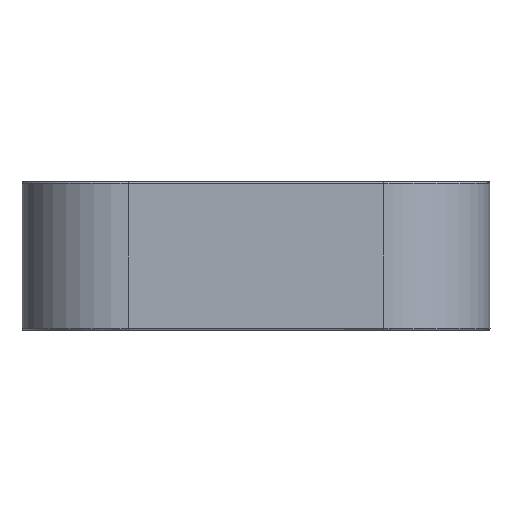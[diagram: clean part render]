
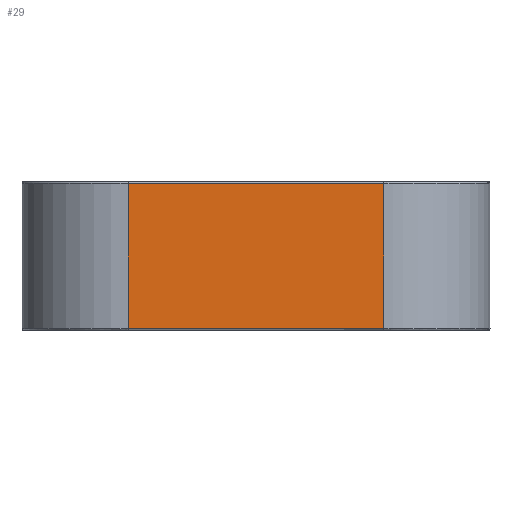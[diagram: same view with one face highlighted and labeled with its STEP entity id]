
A CAD part, left-side view. The second image highlights one B-rep face of the part: STEP entity #29.
In plain terms, the highlighted planar face has unit normal (-1, 0, 0).
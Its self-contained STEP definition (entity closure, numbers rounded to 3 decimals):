
#29=ADVANCED_FACE('',(#143),#1726,.T.);
#143=FACE_OUTER_BOUND('',#257,.T.);
#257=EDGE_LOOP('',(#386,#387,#388,#389));
#386=ORIENTED_EDGE('',*,*,#941,.F.);
#387=ORIENTED_EDGE('',*,*,#989,.T.);
#388=ORIENTED_EDGE('',*,*,#940,.T.);
#389=ORIENTED_EDGE('',*,*,#991,.F.);
#940=EDGE_CURVE('',#1497,#1495,#1392,.T.);
#941=EDGE_CURVE('',#1496,#1494,#1393,.T.);
#989=EDGE_CURVE('',#1496,#1497,#1425,.T.);
#991=EDGE_CURVE('',#1494,#1495,#1427,.T.);
#1392=(
BOUNDED_CURVE()
B_SPLINE_CURVE(1,(#2730,#2731),.UNSPECIFIED.,.F.,.F.)
B_SPLINE_CURVE_WITH_KNOTS((2,2),(1.,69.),
 .UNSPECIFIED.)
CURVE()
GEOMETRIC_REPRESENTATION_ITEM()
RATIONAL_B_SPLINE_CURVE((1.,1.))
REPRESENTATION_ITEM('')
);
#1393=(
BOUNDED_CURVE()
B_SPLINE_CURVE(1,(#2732,#2733),.UNSPECIFIED.,.F.,.F.)
B_SPLINE_CURVE_WITH_KNOTS((2,2),(1.,69.),
 .UNSPECIFIED.)
CURVE()
GEOMETRIC_REPRESENTATION_ITEM()
RATIONAL_B_SPLINE_CURVE((1.,1.))
REPRESENTATION_ITEM('')
);
#1425=(
BOUNDED_CURVE()
B_SPLINE_CURVE(1,(#2845,#2846),.UNSPECIFIED.,.F.,.F.)
B_SPLINE_CURVE_WITH_KNOTS((2,2),(0.,120.),
 .UNSPECIFIED.)
CURVE()
GEOMETRIC_REPRESENTATION_ITEM()
RATIONAL_B_SPLINE_CURVE((1.,1.))
REPRESENTATION_ITEM('')
);
#1427=(
BOUNDED_CURVE()
B_SPLINE_CURVE(1,(#2850,#2851),.UNSPECIFIED.,.F.,.F.)
B_SPLINE_CURVE_WITH_KNOTS((2,2),(0.,120.),
 .UNSPECIFIED.)
CURVE()
GEOMETRIC_REPRESENTATION_ITEM()
RATIONAL_B_SPLINE_CURVE((1.,1.))
REPRESENTATION_ITEM('')
);
#1494=VERTEX_POINT('',#2556);
#1495=VERTEX_POINT('',#2557);
#1496=VERTEX_POINT('',#2558);
#1497=VERTEX_POINT('',#2559);
#1726=PLANE('',#1867);
#1867=AXIS2_PLACEMENT_3D('',#2031,#1949,$);
#1949=DIRECTION('',(-1.,0.,0.));
#2031=CARTESIAN_POINT('',(48554.397,1437.346,-8418.552));
#2556=CARTESIAN_POINT('',(48554.397,1437.346,-8487.552));
#2557=CARTESIAN_POINT('',(48554.397,1557.346,-8487.552));
#2558=CARTESIAN_POINT('',(48554.397,1437.346,-8419.552));
#2559=CARTESIAN_POINT('',(48554.397,1557.346,-8419.552));
#2730=CARTESIAN_POINT('',(48554.397,1557.346,-8419.552));
#2731=CARTESIAN_POINT('',(48554.397,1557.346,-8487.552));
#2732=CARTESIAN_POINT('',(48554.397,1437.346,-8419.552));
#2733=CARTESIAN_POINT('',(48554.397,1437.346,-8487.552));
#2845=CARTESIAN_POINT('',(48554.397,1437.346,-8419.552));
#2846=CARTESIAN_POINT('',(48554.397,1557.346,-8419.552));
#2850=CARTESIAN_POINT('',(48554.397,1437.346,-8487.552));
#2851=CARTESIAN_POINT('',(48554.397,1557.346,-8487.552));
